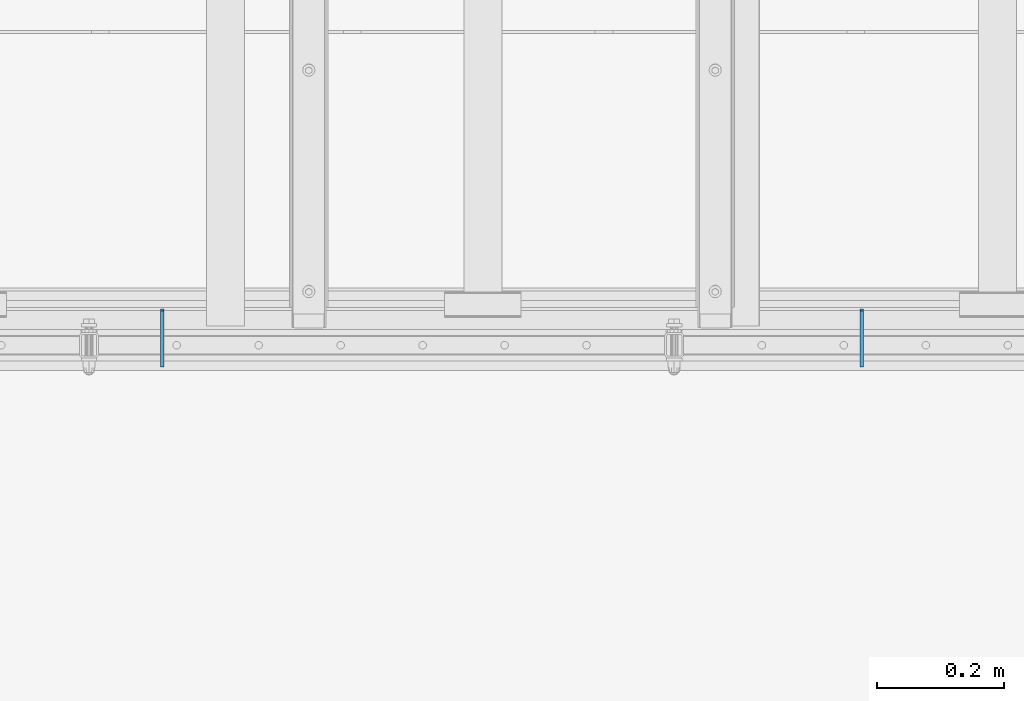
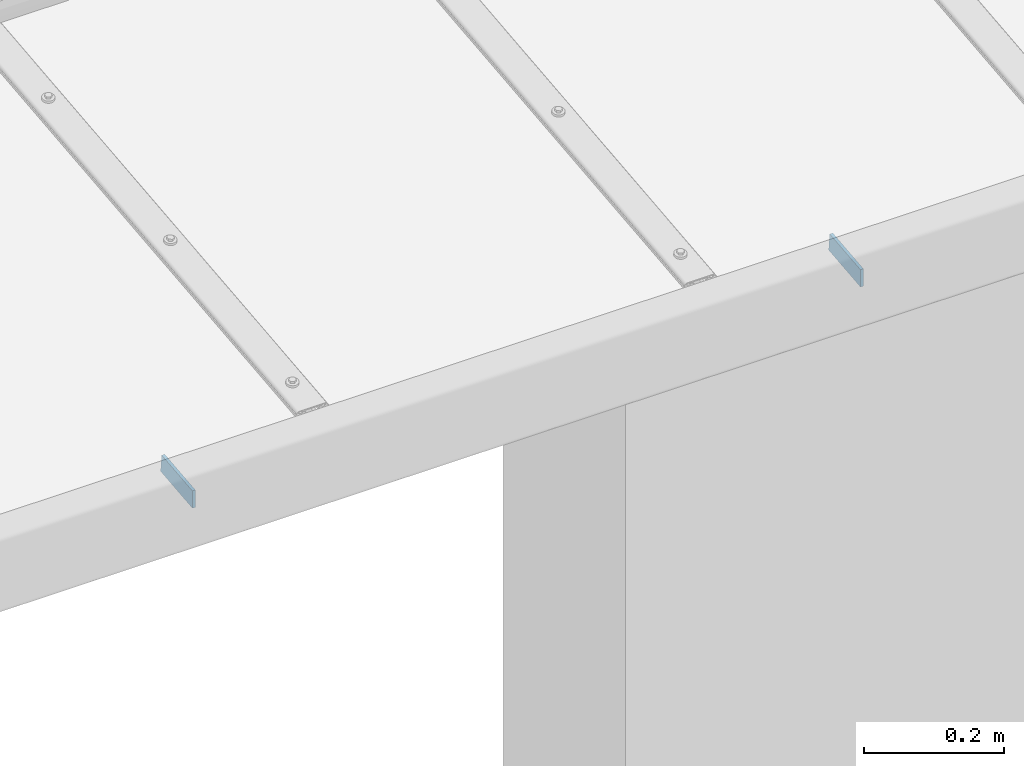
# One storey, part 67 of 162: 2 plates.
"""IFC2X3 building model written with IfcOpenShell, lengths in millimetres."""

import ifcopenshell
import ifcopenshell.guid

model = None  # the IFC model being written
_history = None  # IfcOwnerHistory: only IFC2X3 demands one
_inside = {}  # id of a spatial element -> (the spatial element, [elements in it])
_under = {}  # id of a project, library or spatial element -> (it, [spatial elements below it])
_declared = {}  # id of a project -> (the project, [libraries it declares])
_typed = {}  # id of a type object -> (the type object, [elements of that type])
_made_of = {}  # id of a material, layer set ... -> (it, [elements and type objects made of it])


def new_model(schema):
    """Start an empty IFC model of exactly this schema.

    Asked for "IFC4X3", IfcOpenShell would pick the latest addendum, in which some entities
    have other attributes; the version numbers below select the first issue.
    IFC2X3 requires an IfcOwnerHistory on every rooted entity: one is made here for all.
    """
    global model, _history
    if schema == "IFC4X3":
        model = ifcopenshell.file(schema_version=(4, 3, 0, 0))
    else:
        model = ifcopenshell.file(schema=schema)
    _inside.clear()
    _under.clear()
    _declared.clear()
    _typed.clear()
    _made_of.clear()
    _history = None
    if model.schema == "IFC2X3":
        org = make("IfcOrganization", Name="unknown")
        user = make(
            "IfcPersonAndOrganization",
            ThePerson=make("IfcPerson", FamilyName="unknown"),
            TheOrganization=org,
        )
        app = make(
            "IfcApplication",
            ApplicationDeveloper=org,
            Version="unknown",
            ApplicationFullName="unknown",
            ApplicationIdentifier="unknown",
        )
        _history = make(
            "IfcOwnerHistory",
            OwningUser=user,
            OwningApplication=app,
            ChangeAction="ADDED",
            CreationDate=0,
        )
    return model


def make(cls, **values):
    """One entity of the class cls with the attributes given. An attribute that is None is left unset."""
    return model.create_entity(
        cls, **{name: value for name, value in values.items() if value is not None}
    )


def entity(cls, *values):
    """Any entity or typed value of the class cls, its attributes in the order of the schema. None: left unset."""
    e = model.create_entity(cls)
    for i, value in enumerate(values):
        if value is not None:
            e[i] = value
    return e


def rooted(cls, **values):
    """An entity with a GlobalId (a new one), such as an element, a storey or a relation."""
    return make(cls, GlobalId=ifcopenshell.guid.new(), OwnerHistory=_history, **values)


def si_unit(unit_type, name, prefix=None):
    """IfcSIUnit, for example si_unit("LENGTHUNIT", "METRE", prefix="MILLI")."""
    return make("IfcSIUnit", UnitType=unit_type, Prefix=prefix, Name=name)


def converted_unit(unit_type, name, factor, base, dimensions=None, offset=None):
    """IfcConversionBasedUnit, such as the inch: factor (a typed value) times the base unit."""
    return make(
        "IfcConversionBasedUnit"
        if offset is None
        else "IfcConversionBasedUnitWithOffset",
        ConversionOffset=offset,
        Dimensions=None
        if dimensions is None
        else entity("IfcDimensionalExponents", *dimensions),
        UnitType=unit_type,
        Name=name,
        ConversionFactor=make(
            "IfcMeasureWithUnit", ValueComponent=factor, UnitComponent=base
        ),
    )


def assignment(units):
    """IfcUnitAssignment: the units of a project."""
    return None if units is None else make("IfcUnitAssignment", Units=units)


def point(xyz):
    """IfcCartesianPoint."""
    return None if xyz is None else make("IfcCartesianPoint", Coordinates=xyz)


def direction(xyz):
    """IfcDirection."""
    return None if xyz is None else make("IfcDirection", DirectionRatios=xyz)


def frame(location, z_axis=None, x_axis=None):
    """IfcAxis2Placement3D, a coordinate frame: its origin and axes. An axis left out is left unset."""
    return make(
        "IfcAxis2Placement3D",
        Location=point(location),
        Axis=direction(z_axis),
        RefDirection=direction(x_axis),
    )


def origin_with_axes():
    """The frame at (0, 0, 0) with the z axis (0, 0, 1) and the x axis (1, 0, 0) written out."""
    return frame((0.0, 0.0, 0.0), z_axis=(0.0, 0.0, 1.0), x_axis=(1.0, 0.0, 0.0))


def place(relative_to, where):
    """IfcLocalPlacement: puts the frame where relative to a parent placement (None: the world)."""
    return make(
        "IfcLocalPlacement", PlacementRelTo=relative_to, RelativePlacement=where
    )


def context(
    kind, dimensions, precision=None, world=None, true_north=None, identifier=None
):
    """IfcGeometricRepresentationContext, for example the 3D "Model" context."""
    return make(
        "IfcGeometricRepresentationContext",
        ContextIdentifier=identifier,
        ContextType=kind,
        CoordinateSpaceDimension=dimensions,
        Precision=precision,
        WorldCoordinateSystem=world,
        TrueNorth=true_north,
    )


def project(units=None, contexts=None):
    """IfcProject with its units and contexts."""
    return rooted(
        "IfcProject",
        Name="project",
        RepresentationContexts=contexts,
        UnitsInContext=assignment(units),
    )


def spatial(cls, under=None, at=None, **own):
    """A site, building, storey or space (cls), placed at a placement, below another one or the project."""
    s = rooted(cls, ObjectPlacement=at, **own)
    if under is not None:
        _under.setdefault(under.id(), (under, []))[1].append(s)
    return s


def polyline(points):
    """IfcPolyline through the points."""
    return make("IfcPolyline", Points=[point(p) for p in points])


def outline(outer, holes=None, kind="AREA"):
    """IfcArbitraryClosedProfileDef: a profile drawn as a closed curve; with holes, ...WithVoids."""
    if holes is None:
        return make("IfcArbitraryClosedProfileDef", ProfileType=kind, OuterCurve=outer)
    return make(
        "IfcArbitraryProfileDefWithVoids",
        ProfileType=kind,
        OuterCurve=outer,
        InnerCurves=holes,
    )


def extrude(swept, where, along, depth):
    """IfcExtrudedAreaSolid: the profile swept, set in the frame where, extruded along a direction by depth."""
    return make(
        "IfcExtrudedAreaSolid",
        SweptArea=swept,
        Position=where,
        ExtrudedDirection=direction(along),
        Depth=depth,
    )


def shape(context_of_items, identifier, shape_type, items):
    """IfcShapeRepresentation: the items that make up one representation, for example the "Body"."""
    return make(
        "IfcShapeRepresentation",
        ContextOfItems=context_of_items,
        RepresentationIdentifier=identifier,
        RepresentationType=shape_type,
        Items=items,
    )


def material(Name=None, Category=None):
    """IfcMaterial."""
    return make("IfcMaterial", Name=Name, Category=Category)


def layer(
    of_material, thickness, ventilated=None, Name=None, Category=None, Priority=None
):
    """IfcMaterialLayer: one layer of a wall or slab, of a material (None: an air gap)."""
    return make(
        "IfcMaterialLayer",
        Material=of_material,
        LayerThickness=thickness,
        IsVentilated=ventilated,
        Name=Name,
        Category=Category,
        Priority=Priority,
    )


def layer_set(layers, Name=None):
    """IfcMaterialLayerSet."""
    return make("IfcMaterialLayerSet", MaterialLayers=layers, LayerSetName=Name)


def made_of(thing, what):
    """Note that an element or type object is made of a material, layer set ...; save() writes the relation."""
    if what is not None:
        _made_of.setdefault(what.id(), (what, []))[1].append(thing)
    return thing


def element(
    cls,
    number,
    at=None,
    inside=None,
    cuts=None,
    type_object=None,
    material=None,
    context=None,
    identifier="Body",
    shape_type=None,
    held_by="IfcProductDefinitionShape",
    body=None,
    shapes=None,
    **own,
):
    """One element of the class cls, such as IfcWall. Its Tag is "e" and its number.

    at: its placement. inside: the storey or other place that contains it. cuts: it is an
    opening in that element (IfcRelVoidsElement). A single representation is given by context,
    identifier, shape_type and body (its items); several are given by shapes. held_by: the class
    of the entity that holds the representations. save() writes the other relations.
    """
    e = rooted(cls, Tag="e%d" % number, ObjectPlacement=at, **own)
    if body is not None:
        shapes = [shape(context, identifier, shape_type, body)]
    if shapes is not None:
        e.Representation = make(held_by, Representations=shapes)
    if inside is not None:
        _inside.setdefault(inside.id(), (inside, []))[1].append(e)
    if cuts is not None:
        rooted(
            "IfcRelVoidsElement", RelatingBuildingElement=cuts, RelatedOpeningElement=e
        )
    if type_object is not None:
        _typed.setdefault(type_object.id(), (type_object, []))[1].append(e)
    return made_of(e, material)


def aggregate(whole, parts):
    """IfcRelAggregates: a whole, such as a stair, and the parts it consists of."""
    return rooted("IfcRelAggregates", RelatingObject=whole, RelatedObjects=parts)


def save(model, path):
    """Write the relations noted so far, then the file.

    IfcRelAggregates (storeys below a building ...), IfcRelContainedInSpatialStructure (elements
    in a storey), IfcRelDefinesByType, IfcRelAssociatesMaterial and IfcRelDeclares: one each for
    every whole, place, type object, material and project.
    """
    for whole, parts in _under.values():
        aggregate(whole, parts)
    for where, things in _inside.values():
        rooted(
            "IfcRelContainedInSpatialStructure",
            RelatedElements=things,
            RelatingStructure=where,
        )
    for kind, things in _typed.values():
        rooted("IfcRelDefinesByType", RelatedObjects=things, RelatingType=kind)
    for what, things in _made_of.values():
        rooted("IfcRelAssociatesMaterial", RelatedObjects=things, RelatingMaterial=what)
    for by, libraries in _declared.values():
        rooted("IfcRelDeclares", RelatingContext=by, RelatedDefinitions=libraries)
    model.write(path)


model = new_model("IFC2X3")

# Units and contexts
model_context = context("Model", 3, precision=1e-09, world=origin_with_axes())
ifc_project = project(units=[si_unit("LENGTHUNIT", "METRE", prefix="MILLI"), si_unit("AREAUNIT", "SQUARE_METRE"), si_unit("VOLUMEUNIT", "CUBIC_METRE"), converted_unit("PLANEANGLEUNIT", "DEGREE", entity("IfcPlaneAngleMeasure", 0.01745329), si_unit("PLANEANGLEUNIT", "RADIAN"), dimensions=[0, 0, 0, 0, 0, 0, 0])], contexts=[model_context])

# Site, building, storey
site_placement = place(None, origin_with_axes())
site = spatial("IfcSite", under=ifc_project, at=site_placement, Name="Hermannstra?e 1a, 60318 Frankfurt", CompositionType="ELEMENT")
building_placement = place(site_placement, origin_with_axes())
building = spatial("IfcBuilding", under=site, at=building_placement, Name="Struktur 1", CompositionType="ELEMENT")
storey_placement = place(building_placement, origin_with_axes())
storey = spatial("IfcBuildingStorey", under=building, at=storey_placement, Name="Default Storey", CompositionType="ELEMENT", Elevation=0.0)

# Plates
ifc_material = material(Name="S235JR")
ifc_layer = layer(ifc_material, 5.0)
ifc_layer_set = layer_set([ifc_layer], Name="S235JR")
for number, where, z_axis, x_axis in (
    (1, (4740.80936482, 1569.144115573, 17385.770237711), (-1.0, 0.0, 0.0), (0.0, 0.104528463, -0.994521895)),
    (2, (3640.80936482, 1569.144115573, 17385.770237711), (-1.0, 0.0, 0.0), (0.0, 0.104528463, -0.994521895)),
):
    element("IfcPlate", number, at=place(None, frame(where, z_axis=z_axis, x_axis=x_axis)), inside=storey, material=ifc_layer_set, Name="-", ObjectType="-", context=model_context, shape_type="SweptSolid", body=[
        extrude(outline(polyline([(0.0, 0.0), (30.0, 0.0), (30.000000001, 91.170030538), (2e-09, 88.016903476), (0.0, 0.0)])), origin_with_axes(), (0.0, 0.0, 1.0), 5.0),
    ])

save(model, "model.ifc")
